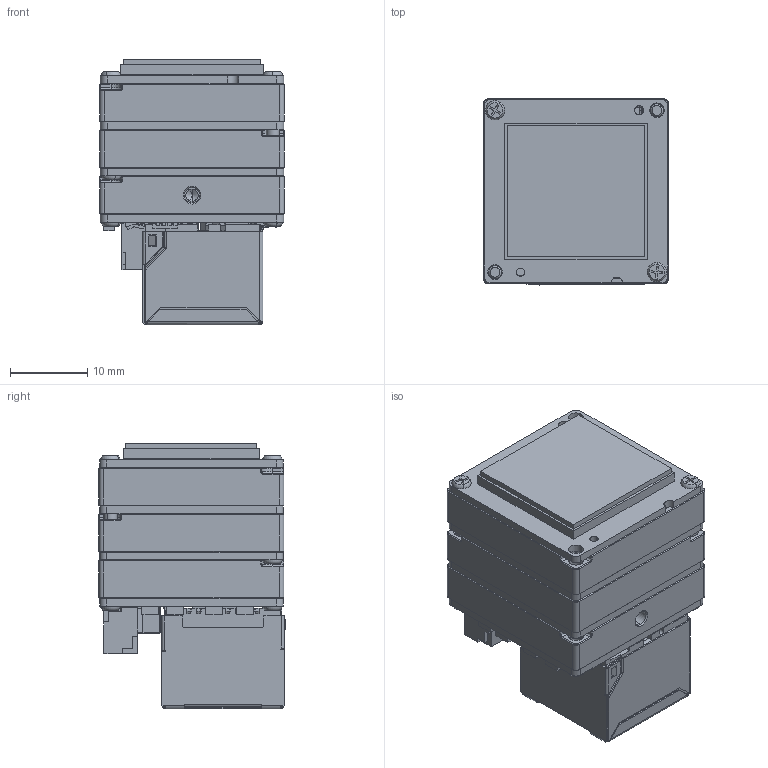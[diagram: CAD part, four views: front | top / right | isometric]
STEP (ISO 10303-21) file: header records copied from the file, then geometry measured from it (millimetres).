
FILE_DESCRIPTION (( 'STEP AP203' ), '1' );
FILE_NAME ('305-585-B_RJ45.STEP', '2023-08-03T20:53:24', ( '' ), ( '' ), 'SwSTEP 2.0', 'SolidWorks 2021', '' );
FILE_SCHEMA (( 'CONFIG_CONTROL_DESIGN' ));
Products named in the file (1): 305-585-B_RJ45
Bounding box: 24 x 24.15 x 34.44 mm (x, y, z)
Volume: 6792.9 mm3; surface area: 15243.4 mm2
Topology: 2 solids, 11 shells, 3834 faces, 10346 edges, 6433 vertices
Faces by surface type: plane 2407, cylinder 842, bspline 231, cone 197, torus 93, sphere 64
Entity records: 123299 total; most frequent: CARTESIAN_POINT 28359, ORIENTED_EDGE 20492, DIRECTION 18753, EDGE_CURVE 10246, LINE 7583, VECTOR 7583, VERTEX_POINT 6429, AXIS2_PLACEMENT_3D 5585
